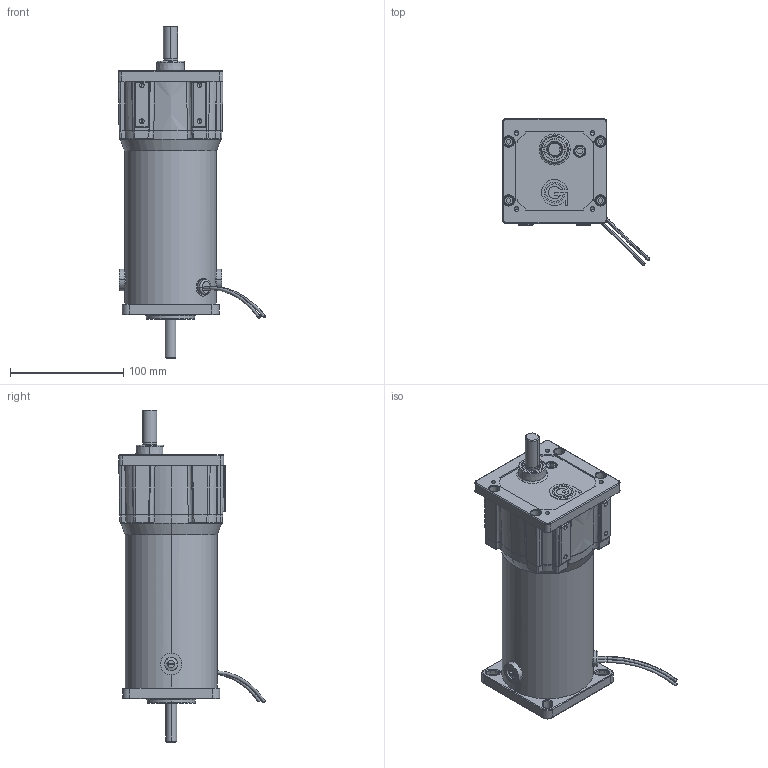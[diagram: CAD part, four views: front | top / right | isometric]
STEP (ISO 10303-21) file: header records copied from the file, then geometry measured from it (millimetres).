
FILE_DESCRIPTION (( 'STEP AP203' ), '1' );
FILE_NAME ('OUTLINE PM8014HV-PS1900.STEP', '2006-08-18T17:50:38', ( 'Groschopp' ), ( 'Groschopp' ), 'SwSTEP 2.0', 'SolidWorks 2006004', '' );
FILE_SCHEMA (( 'CONFIG_CONTROL_DESIGN' ));
Length unit declared in the file: inch
Products named in the file (19): 534-19-1000; 513-60-0300-0301_513-60-0300; 300-53-0000-0099_300-53-0012; 530-60-1500; 300-15-0000-0099_300-15-0002; 660-10-0802; 705-10-1000; OUTLINE PM8014HV-PS1900; 840-60-0400; 841-60-0400; 707-10-1200; 332-00-0000; 851-19-0100 rev2; 851-19-0000; 655-10-0015; 600-10-0003; 823-60-1000; lead wire red smokeguard; lead wire blk smokeguard
Assembly tree (25 placements, depth 3):
  OUTLINE PM8014HV-PS1900
    655-10-0015
    lead wire red smokeguard
    300-53-0000-0099_300-53-0012  x4
    530-60-1500
    660-10-0802
    840-60-0400
      841-60-0400
      707-10-1200  x2
      513-60-0300-0301_513-60-0300  x2
    332-00-0000
    300-15-0000-0099_300-15-0002  x2
    851-19-0100 rev2
    705-10-1000  x2
    823-60-1000
    lead wire blk smokeguard
    851-19-0000
    534-19-1000
    600-10-0003
Bounding box: 130.53 x 129.46 x 293.65 mm (x, y, z)
Volume: 568530.7 mm3; surface area: 234830.2 mm2
Topology: 24 solids, 25 shells, 2213 faces, 5437 edges, 3324 vertices
Faces by surface type: plane 645, cylinder 614, torus 379, cone 265, bspline 232, sphere 78
Entity records: 103537 total; most frequent: CARTESIAN_POINT 54580, DIRECTION 9938, ORIENTED_EDGE 9772, EDGE_CURVE 4886, AXIS2_PLACEMENT_3D 4050, VERTEX_POINT 3000, CIRCLE 2238, EDGE_LOOP 2178
